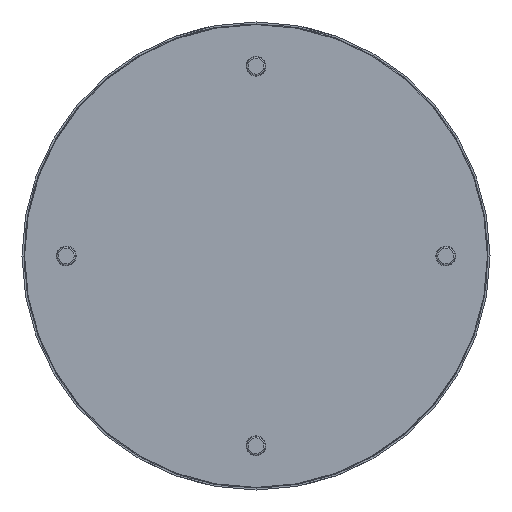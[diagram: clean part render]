
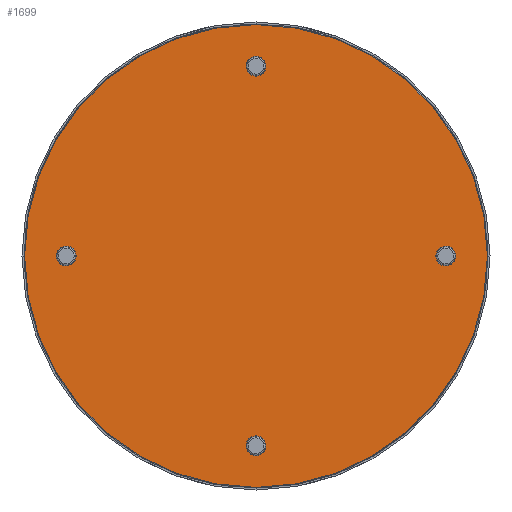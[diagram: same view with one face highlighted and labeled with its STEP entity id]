
A CAD part, front view. The second image highlights one B-rep face of the part: STEP entity #1699.
In plain terms, the highlighted planar face has unit normal (0, -1, 0).
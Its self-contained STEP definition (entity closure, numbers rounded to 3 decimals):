
#85 = DIRECTION ( 'NONE',  ( 0., 0., -1. ) ) ;
#105 = FACE_OUTER_BOUND ( 'NONE', #921, .T. ) ;
#460 = DIRECTION ( 'NONE',  ( 0., 1., 0. ) ) ;
#747 = AXIS2_PLACEMENT_3D ( 'NONE', #2044, #460, #1351 ) ;
#764 = PLANE ( 'NONE',  #747 ) ;
#921 = EDGE_LOOP ( 'NONE', ( #2041 ) ) ;
#1002 = CIRCLE ( 'NONE', #1114, 175.5 ) ;
#1114 = AXIS2_PLACEMENT_3D ( 'NONE', #1850, #1693, #85 ) ;
#1351 = DIRECTION ( 'NONE',  ( 0., 0., -1. ) ) ;
#1531 = EDGE_CURVE ( 'NONE', #1749, #1749, #1002, .T. ) ;
#1693 = DIRECTION ( 'NONE',  ( 0., 1., 0. ) ) ;
#1699 = ADVANCED_FACE ( 'NONE', ( #105 ), #764, .F. ) ;
#1749 = VERTEX_POINT ( 'NONE', #2115 ) ;
#1850 = CARTESIAN_POINT ( 'NONE',  ( 0., -1399.918, 0. ) ) ;
#2041 = ORIENTED_EDGE ( 'NONE', *, *, #1531, .F. ) ;
#2044 = CARTESIAN_POINT ( 'NONE',  ( 0., -1399.918, 0. ) ) ;
#2115 = CARTESIAN_POINT ( 'NONE',  ( 0., -1399.918, -175.5 ) ) ;
